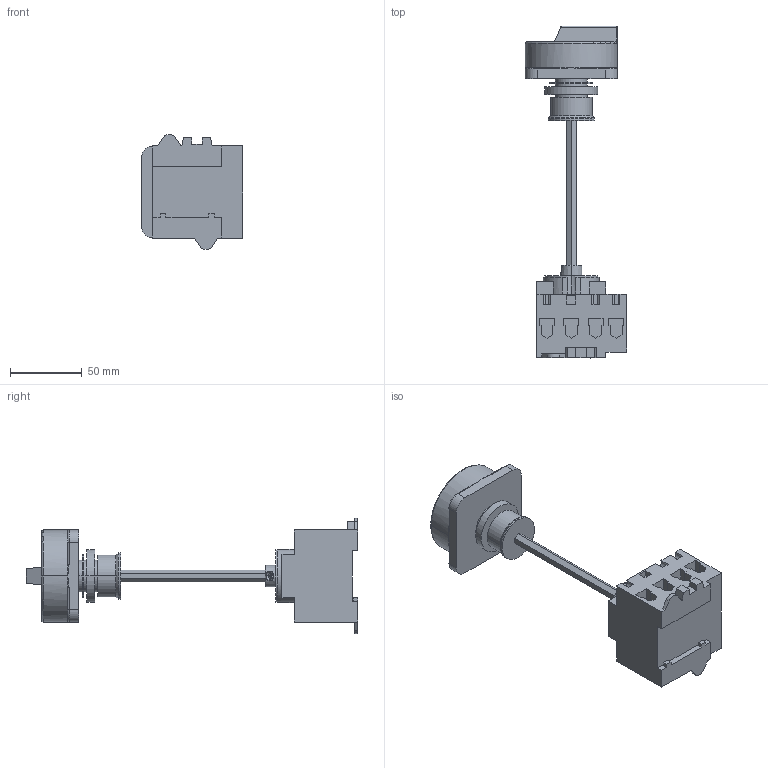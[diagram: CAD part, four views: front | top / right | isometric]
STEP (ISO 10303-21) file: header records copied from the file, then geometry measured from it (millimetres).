
FILE_DESCRIPTION (( 'STEP AP203' ), '1' );
FILE_NAME ('LTS63_80 VZVHN4 A4.STEP', '2014-05-14T05:45:22', ( '' ), ( '' ), 'SwSTEP 2.0', 'SolidWorks 2014', '' );
FILE_SCHEMA (( 'CONFIG_CONTROL_DESIGN' ));
Length unit declared in the file: millimetre
Products named in the file (5): TK2Z H4; LTS63_80 VZVHN4 A4; LTS63 VZV A4_Schaltkörper; 8184; Achse TK-LT_100_300
Assembly tree (4 placements, depth 2):
  LTS63_80 VZVHN4 A4
    LTS63 VZV A4_Schaltkörper
    8184
    Achse TK-LT_100_300
    TK2Z H4
Bounding box: 70.5 x 230.7 x 80 mm (x, y, z)
Volume: 261597 mm3; surface area: 58846.5 mm2
Topology: 4 solids, 4 shells, 357 faces, 939 edges, 597 vertices
Faces by surface type: plane 211, cylinder 78, cone 37, bspline 18, torus 13
Entity records: 12065 total; most frequent: CARTESIAN_POINT 2810, ORIENTED_EDGE 1858, DIRECTION 1778, EDGE_CURVE 929, LINE 602, VECTOR 602, VERTEX_POINT 597, AXIS2_PLACEMENT_3D 588
